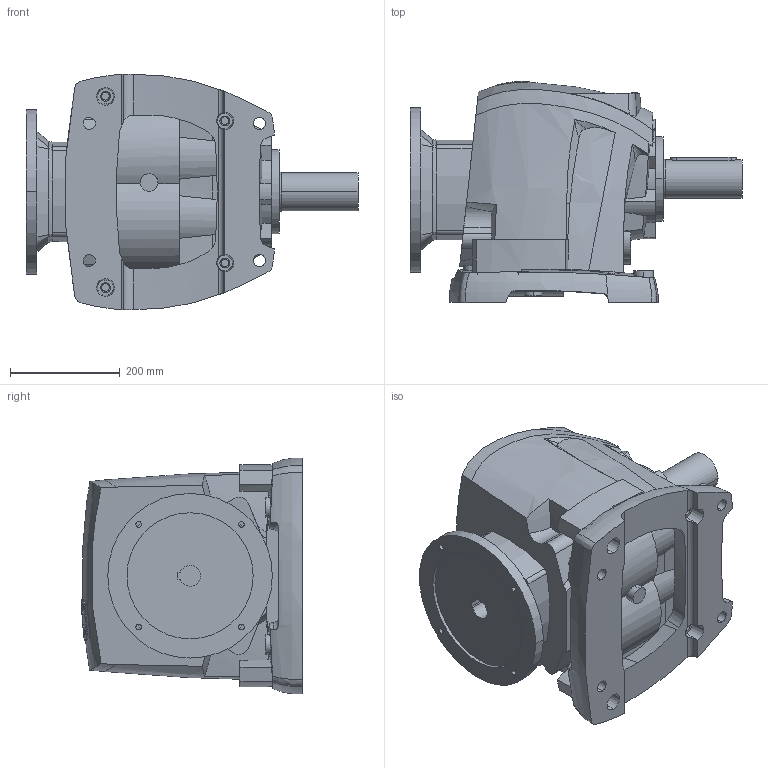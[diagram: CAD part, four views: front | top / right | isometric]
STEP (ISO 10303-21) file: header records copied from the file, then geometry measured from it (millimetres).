
FILE_DESCRIPTION((''),'2;1');
FILE_NAME('R60_SW_PAM132_D2','2013-12-23T',('Luca'),(''),'PRO/ENGINEER BY PARAMETRIC TECHNOLOGY CORPORATION, 2008230','PRO/ENGINEER BY PARAMETRIC TECHNOLOGY CORPORATION, 2008230','');
FILE_SCHEMA(('CONFIG_CONTROL_DESIGN'));
Length unit declared in the file: millimetre
Products named in the file (1): R60_SW_PAM132_D2
Bounding box: 605.5 x 402.94 x 429.76 mm (x, y, z)
Volume: 44170831.7 mm3; surface area: 1189434.8 mm2
Topology: 1 solids, 1 shells, 526 faces, 1459 edges, 970 vertices
Faces by surface type: cylinder 193, plane 192, bspline 89, cone 30, torus 19, extrusion 3
Entity records: 22646 total; most frequent: CARTESIAN_POINT 10169, ORIENTED_EDGE 2914, DIRECTION 2087, EDGE_CURVE 1457, VERTEX_POINT 970, AXIS2_PLACEMENT_3D 776, EDGE_LOOP 595, B_SPLINE_CURVE_WITH_KNOTS 586
